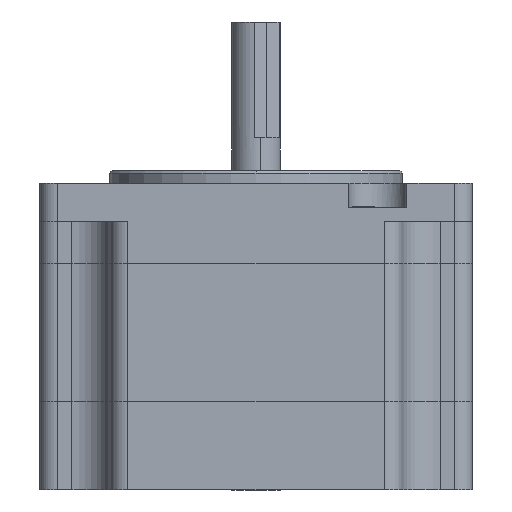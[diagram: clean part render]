
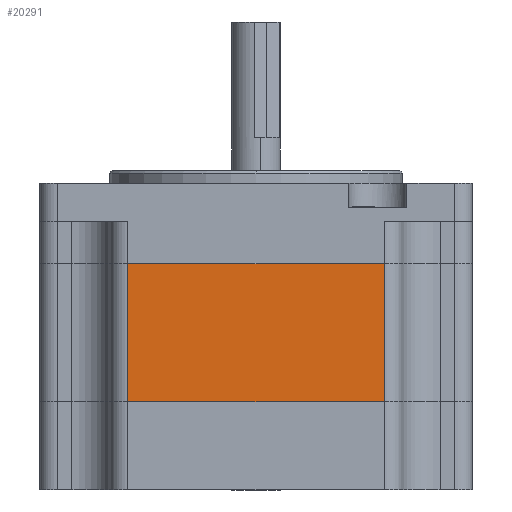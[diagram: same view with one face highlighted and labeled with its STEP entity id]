
A CAD part, front view. The second image highlights one B-rep face of the part: STEP entity #20291.
In plain terms, the highlighted planar face has unit normal (0, -1, 0).
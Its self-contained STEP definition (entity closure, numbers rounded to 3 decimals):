
#125 = EDGE_CURVE ( 'NONE', #1747, #1746, #41773, .T. ) ;
#128 = EDGE_CURVE ( 'NONE', #1749, #1748, #41775, .T. ) ;
#129 = EDGE_CURVE ( 'NONE', #1748, #1746, #41776, .T. ) ;
#130 = EDGE_CURVE ( 'NONE', #1747, #1749, #41777, .T. ) ;
#701 = ORIENTED_EDGE ( 'NONE', *, *, #129, .F. ) ;
#702 = ORIENTED_EDGE ( 'NONE', *, *, #130, .F. ) ;
#703 = ORIENTED_EDGE ( 'NONE', *, *, #128, .F. ) ;
#704 = ORIENTED_EDGE ( 'NONE', *, *, #125, .T. ) ;
#1746 = VERTEX_POINT ( 'NONE', #14934 ) ;
#1747 = VERTEX_POINT ( 'NONE', #14935 ) ;
#1748 = VERTEX_POINT ( 'NONE', #14936 ) ;
#1749 = VERTEX_POINT ( 'NONE', #14937 ) ;
#11894 = VECTOR ( 'NONE', #37058, 1000. ) ;
#11895 = VECTOR ( 'NONE', #37060, 1000. ) ;
#11896 = VECTOR ( 'NONE', #37056, 1000. ) ;
#11899 = VECTOR ( 'NONE', #37048, 1000. ) ;
#12980 = EDGE_LOOP ( 'NONE', ( #701, #703, #702, #704 ) ) ;
#14934 = CARTESIAN_POINT ( 'NONE',  ( -16.7, -28.2, 35. ) ) ;
#14935 = CARTESIAN_POINT ( 'NONE',  ( -16.7, -28.2, 53. ) ) ;
#14936 = CARTESIAN_POINT ( 'NONE',  ( 16.7, -28.2, 35. ) ) ;
#14937 = CARTESIAN_POINT ( 'NONE',  ( 16.7, -28.2, 53. ) ) ;
#19313 = FACE_OUTER_BOUND ( 'NONE', #12980, .T. ) ;
#20291 = ADVANCED_FACE ( 'NONE', ( #19313 ), #23306, .T. ) ;
#23306 = PLANE ( 'NONE',  #31338 ) ;
#23307 = CARTESIAN_POINT ( 'NONE',  ( -19., -28.2, 0. ) ) ;
#23308 = DIRECTION ( 'NONE',  ( 0., -1., 0. ) ) ;
#23309 = DIRECTION ( 'NONE',  ( 0., 0., -1. ) ) ;
#31338 = AXIS2_PLACEMENT_3D ( 'NONE', #23307, #23308, #23309 ) ;
#37047 = CARTESIAN_POINT ( 'NONE',  ( -16.7, -28.2, 0. ) ) ;
#37048 = DIRECTION ( 'NONE',  ( 0., 0., -1. ) ) ;
#37055 = CARTESIAN_POINT ( 'NONE',  ( 16.7, -28.2, 122.091 ) ) ;
#37056 = DIRECTION ( 'NONE',  ( 0., 0., -1. ) ) ;
#37057 = CARTESIAN_POINT ( 'NONE',  ( -19., -28.2, 35. ) ) ;
#37058 = DIRECTION ( 'NONE',  ( -1., 0., 0. ) ) ;
#37059 = CARTESIAN_POINT ( 'NONE',  ( 0., -28.2, 53. ) ) ;
#37060 = DIRECTION ( 'NONE',  ( 1., 0., 0. ) ) ;
#41773 = LINE ( 'NONE', #37047, #11899 ) ;
#41775 = LINE ( 'NONE', #37055, #11896 ) ;
#41776 = LINE ( 'NONE', #37057, #11894 ) ;
#41777 = LINE ( 'NONE', #37059, #11895 ) ;
